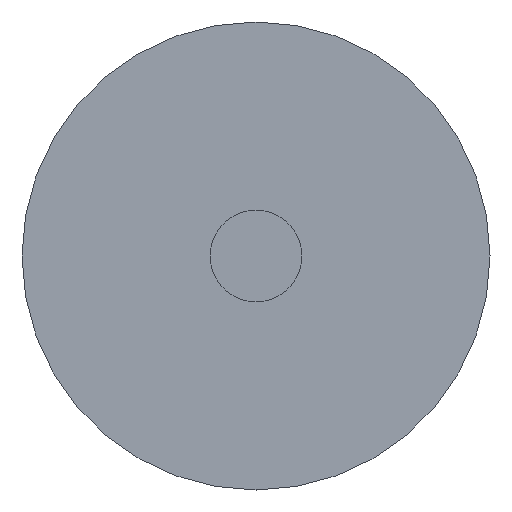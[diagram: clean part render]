
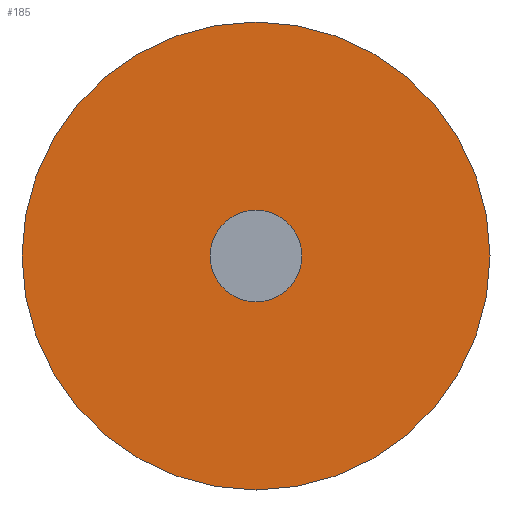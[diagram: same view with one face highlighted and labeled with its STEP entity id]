
A CAD part, front view. The second image highlights one B-rep face of the part: STEP entity #185.
In plain terms, the highlighted planar face has unit normal (0, -1, 0).
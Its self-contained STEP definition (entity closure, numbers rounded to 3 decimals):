
#1 = CARTESIAN_POINT ( 'NONE',  ( 0., -6.5, 0. ) ) ;
#26 = CIRCLE ( 'NONE', #194, 12.75 ) ;
#32 = CARTESIAN_POINT ( 'NONE',  ( 0., -6.5, 0. ) ) ;
#35 = DIRECTION ( 'NONE',  ( 0., 1., 0. ) ) ;
#48 = DIRECTION ( 'NONE',  ( 0., 1., 0. ) ) ;
#57 = ORIENTED_EDGE ( 'NONE', *, *, #188, .T. ) ;
#71 = CARTESIAN_POINT ( 'NONE',  ( -12.75, -6.5, 0. ) ) ;
#73 = DIRECTION ( 'NONE',  ( 0., 1., 0. ) ) ;
#76 = EDGE_LOOP ( 'NONE', ( #88, #57 ) ) ;
#77 = DIRECTION ( 'NONE',  ( 0., 1., 0. ) ) ;
#88 = ORIENTED_EDGE ( 'NONE', *, *, #499, .T. ) ;
#123 = DIRECTION ( 'NONE',  ( -1., 0., 0. ) ) ;
#137 = CARTESIAN_POINT ( 'NONE',  ( 0., -6.5, 0. ) ) ;
#142 = ORIENTED_EDGE ( 'NONE', *, *, #279, .F. ) ;
#145 = CARTESIAN_POINT ( 'NONE',  ( -1.75, -6.5, 0. ) ) ;
#148 = VERTEX_POINT ( 'NONE', #71 ) ;
#169 = PLANE ( 'NONE',  #380 ) ;
#181 = AXIS2_PLACEMENT_3D ( 'NONE', #32, #35, #123 ) ;
#185 = ADVANCED_FACE ( 'NONE', ( #291, #361 ), #169, .F. ) ;
#188 = EDGE_CURVE ( 'NONE', #482, #462, #426, .T. ) ;
#194 = AXIS2_PLACEMENT_3D ( 'NONE', #1, #48, #305 ) ;
#211 = CARTESIAN_POINT ( 'NONE',  ( 0., -6.5, 0. ) ) ;
#272 = CARTESIAN_POINT ( 'NONE',  ( 1.75, -6.5, 0. ) ) ;
#274 = CARTESIAN_POINT ( 'NONE',  ( 12.75, -6.5, 0. ) ) ;
#279 = EDGE_CURVE ( 'NONE', #456, #148, #287, .T. ) ;
#287 = CIRCLE ( 'NONE', #181, 12.75 ) ;
#291 = FACE_OUTER_BOUND ( 'NONE', #561, .T. ) ;
#298 = DIRECTION ( 'NONE',  ( -1., 0., 0. ) ) ;
#305 = DIRECTION ( 'NONE',  ( -1., 0., 0. ) ) ;
#351 = EDGE_CURVE ( 'NONE', #148, #456, #26, .T. ) ;
#361 = FACE_BOUND ( 'NONE', #76, .T. ) ;
#380 = AXIS2_PLACEMENT_3D ( 'NONE', #570, #77, #298 ) ;
#410 = DIRECTION ( 'NONE',  ( 0., 1., 0. ) ) ;
#420 = CIRCLE ( 'NONE', #489, 1.75 ) ;
#426 = CIRCLE ( 'NONE', #534, 1.75 ) ;
#456 = VERTEX_POINT ( 'NONE', #274 ) ;
#462 = VERTEX_POINT ( 'NONE', #145 ) ;
#482 = VERTEX_POINT ( 'NONE', #272 ) ;
#489 = AXIS2_PLACEMENT_3D ( 'NONE', #137, #410, #500 ) ;
#499 = EDGE_CURVE ( 'NONE', #462, #482, #420, .T. ) ;
#500 = DIRECTION ( 'NONE',  ( -1., 0., 0. ) ) ;
#520 = DIRECTION ( 'NONE',  ( -1., 0., 0. ) ) ;
#531 = ORIENTED_EDGE ( 'NONE', *, *, #351, .F. ) ;
#534 = AXIS2_PLACEMENT_3D ( 'NONE', #211, #73, #520 ) ;
#561 = EDGE_LOOP ( 'NONE', ( #531, #142 ) ) ;
#570 = CARTESIAN_POINT ( 'NONE',  ( 1.75, -6.5, 0. ) ) ;
